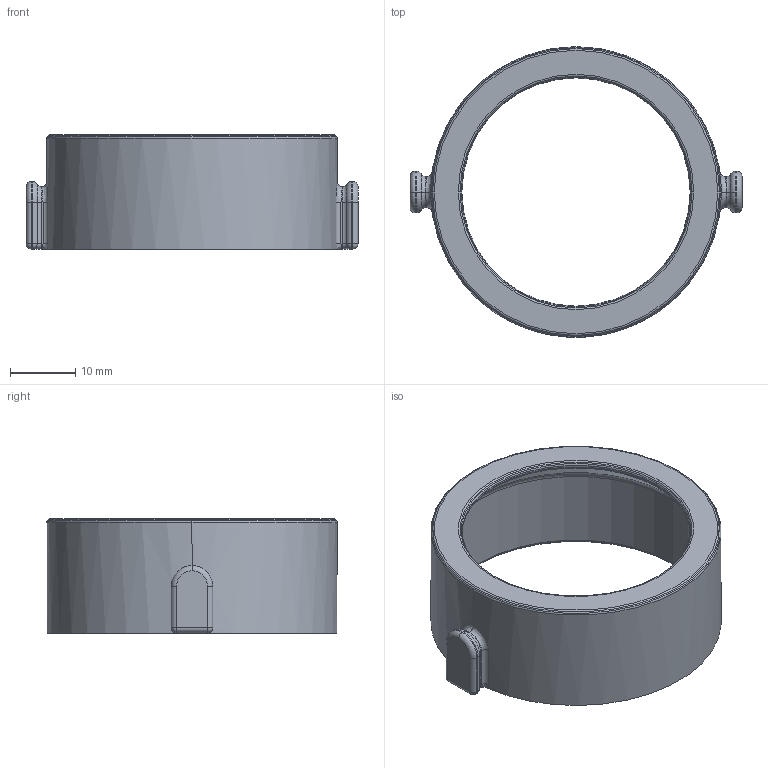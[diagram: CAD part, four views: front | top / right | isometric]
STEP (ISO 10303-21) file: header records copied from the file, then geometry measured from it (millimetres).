
FILE_DESCRIPTION (( 'STEP AP203' ), '1' );
FILE_NAME ('BAND_RETAINER.STEP', '2024-03-01T15:31:31', ( '' ), ( '' ), 'SwSTEP 2.0', 'SolidWorks 2020', '' );
FILE_SCHEMA (( 'CONFIG_CONTROL_DESIGN' ));
Length unit declared in the file: inch
Products named in the file (1): BAND_RETAINER
Bounding box: 50.8 x 44.45 x 17.46 mm (x, y, z)
Volume: 4587.1 mm3; surface area: 5712.8 mm2
Topology: 1 solids, 1 shells, 104 faces, 227 edges, 117 vertices
Faces by surface type: cylinder 39, torus 29, plane 12, cone 8, bspline 8, sphere 8
Entity records: 3270 total; most frequent: CARTESIAN_POINT 965, DIRECTION 521, ORIENTED_EDGE 438, AXIS2_PLACEMENT_3D 225, EDGE_CURVE 219, CIRCLE 128, VERTEX_POINT 117, EDGE_LOOP 106
